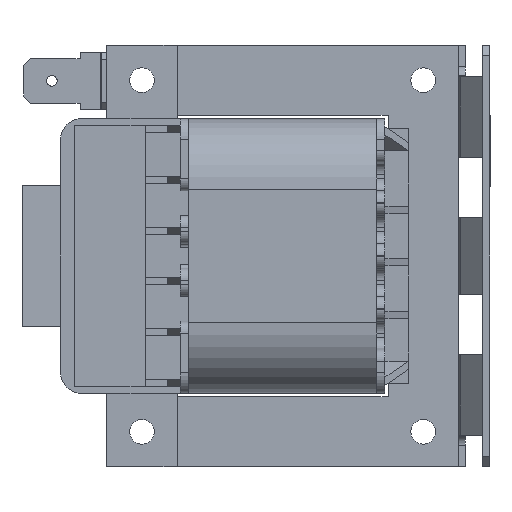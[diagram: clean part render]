
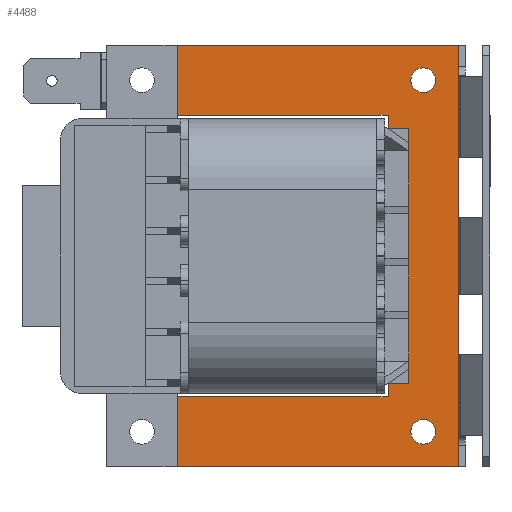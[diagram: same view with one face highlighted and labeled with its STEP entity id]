
A CAD part, left-side view. The second image highlights one B-rep face of the part: STEP entity #4488.
In plain terms, the highlighted planar face has unit normal (-1, 0, 0).
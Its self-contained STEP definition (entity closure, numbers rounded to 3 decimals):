
#148 = LINE ( 'NONE', #2584, #17197 ) ;
#306 = LINE ( 'NONE', #9250, #22642 ) ;
#346 = DIRECTION ( 'NONE',  ( 0., -1., 0. ) ) ;
#448 = EDGE_CURVE ( 'NONE', #9508, #2737, #2443, .T. ) ;
#568 = FACE_BOUND ( 'NONE', #26976, .T. ) ;
#590 = LINE ( 'NONE', #17145, #617 ) ;
#617 = VECTOR ( 'NONE', #26851, 1000. ) ;
#984 = ORIENTED_EDGE ( 'NONE', *, *, #28867, .F. ) ;
#1249 = AXIS2_PLACEMENT_3D ( 'NONE', #4838, #4713, #4674 ) ;
#1821 = VECTOR ( 'NONE', #19658, 1000. ) ;
#2033 = CARTESIAN_POINT ( 'NONE',  ( -10.5, 40., 30. ) ) ;
#2141 = ORIENTED_EDGE ( 'NONE', *, *, #25200, .F. ) ;
#2443 = LINE ( 'NONE', #19525, #4057 ) ;
#2543 = LINE ( 'NONE', #26279, #1821 ) ;
#2564 = VECTOR ( 'NONE', #21521, 1000. ) ;
#2584 = CARTESIAN_POINT ( 'NONE',  ( -10.5, 40., 30. ) ) ;
#2729 = CARTESIAN_POINT ( 'NONE',  ( -10.5, 40., -30. ) ) ;
#2737 = VERTEX_POINT ( 'NONE', #4997 ) ;
#2883 = CARTESIAN_POINT ( 'NONE',  ( -10.5, 5., 25. ) ) ;
#3529 = EDGE_CURVE ( 'NONE', #16039, #8629, #590, .T. ) ;
#3856 = EDGE_CURVE ( 'NONE', #24986, #26469, #6150, .T. ) ;
#4049 = ORIENTED_EDGE ( 'NONE', *, *, #22302, .F. ) ;
#4057 = VECTOR ( 'NONE', #4483, 1000. ) ;
#4459 = LINE ( 'NONE', #11132, #22290 ) ;
#4483 = DIRECTION ( 'NONE',  ( 0., 1., 0. ) ) ;
#4488 = ADVANCED_FACE ( 'NONE', ( #25323, #568, #9359 ), #4929, .F. ) ;
#4674 = DIRECTION ( 'NONE',  ( 0., 0., -1. ) ) ;
#4713 = DIRECTION ( 'NONE',  ( 1., 0., 0. ) ) ;
#4838 = CARTESIAN_POINT ( 'NONE',  ( -10.5, 40., -20. ) ) ;
#4909 = CARTESIAN_POINT ( 'NONE',  ( -10.5, 40., -20. ) ) ;
#4929 = PLANE ( 'NONE',  #1249 ) ;
#4997 = CARTESIAN_POINT ( 'NONE',  ( -10.5, 40., 20. ) ) ;
#5068 = DIRECTION ( 'NONE',  ( 0., 0., -1. ) ) ;
#5392 = CARTESIAN_POINT ( 'NONE',  ( -10.5, 10., -20. ) ) ;
#6014 = ORIENTED_EDGE ( 'NONE', *, *, #27457, .F. ) ;
#6062 = VECTOR ( 'NONE', #21750, 1000. ) ;
#6150 = LINE ( 'NONE', #20794, #6062 ) ;
#6591 = VERTEX_POINT ( 'NONE', #5392 ) ;
#6870 = CARTESIAN_POINT ( 'NONE',  ( -10.5, 5., -25. ) ) ;
#6908 = ORIENTED_EDGE ( 'NONE', *, *, #21796, .F. ) ;
#7315 = CARTESIAN_POINT ( 'NONE',  ( -10.5, 0., 30. ) ) ;
#7464 = EDGE_CURVE ( 'NONE', #25680, #25680, #24469, .T. ) ;
#7940 = ORIENTED_EDGE ( 'NONE', *, *, #11277, .T. ) ;
#8462 = LINE ( 'NONE', #10271, #2564 ) ;
#8629 = VERTEX_POINT ( 'NONE', #13686 ) ;
#8752 = VECTOR ( 'NONE', #12371, 1000. ) ;
#9250 = CARTESIAN_POINT ( 'NONE',  ( -10.5, 40., 20. ) ) ;
#9359 = FACE_OUTER_BOUND ( 'NONE', #15219, .T. ) ;
#9433 = DIRECTION ( 'NONE',  ( 0., 0., 1. ) ) ;
#9470 = VERTEX_POINT ( 'NONE', #10473 ) ;
#9508 = VERTEX_POINT ( 'NONE', #9520 ) ;
#9520 = CARTESIAN_POINT ( 'NONE',  ( -10.5, 10., 20. ) ) ;
#10271 = CARTESIAN_POINT ( 'NONE',  ( -10.5, 40., 10. ) ) ;
#10281 = CARTESIAN_POINT ( 'NONE',  ( -10.5, 40., -10. ) ) ;
#10473 = CARTESIAN_POINT ( 'NONE',  ( -10.5, 10., 10. ) ) ;
#10534 = AXIS2_PLACEMENT_3D ( 'NONE', #2883, #18474, #5068 ) ;
#10750 = DIRECTION ( 'NONE',  ( 1., 0., 0. ) ) ;
#10808 = CARTESIAN_POINT ( 'NONE',  ( -10.5, 0., -30. ) ) ;
#10819 = VERTEX_POINT ( 'NONE', #19429 ) ;
#11132 = CARTESIAN_POINT ( 'NONE',  ( -10.5, 10., -10. ) ) ;
#11140 = VECTOR ( 'NONE', #11677, 1000. ) ;
#11277 = EDGE_CURVE ( 'NONE', #24990, #24990, #20054, .T. ) ;
#11677 = DIRECTION ( 'NONE',  ( 0., -1., 0. ) ) ;
#11912 = DIRECTION ( 'NONE',  ( 0., 0., 1. ) ) ;
#12174 = VERTEX_POINT ( 'NONE', #19927 ) ;
#12371 = DIRECTION ( 'NONE',  ( 0., 1., 0. ) ) ;
#12820 = EDGE_LOOP ( 'NONE', ( #21569 ) ) ;
#13686 = CARTESIAN_POINT ( 'NONE',  ( -10.5, 40., 10. ) ) ;
#14367 = EDGE_CURVE ( 'NONE', #25401, #24986, #148, .T. ) ;
#14418 = DIRECTION ( 'NONE',  ( 0., 0., -1. ) ) ;
#14520 = CARTESIAN_POINT ( 'NONE',  ( -10.5, 0., -30. ) ) ;
#14669 = LINE ( 'NONE', #14520, #8752 ) ;
#14679 = ORIENTED_EDGE ( 'NONE', *, *, #17437, .F. ) ;
#14970 = EDGE_CURVE ( 'NONE', #8629, #9470, #8462, .T. ) ;
#15219 = EDGE_LOOP ( 'NONE', ( #6014, #27326, #984, #25850, #28249, #14679, #26868, #6908, #4049, #2141, #16909, #27411 ) ) ;
#16039 = VERTEX_POINT ( 'NONE', #10281 ) ;
#16683 = CARTESIAN_POINT ( 'NONE',  ( -10.5, 5., 23.25 ) ) ;
#16909 = ORIENTED_EDGE ( 'NONE', *, *, #3856, .F. ) ;
#17056 = LINE ( 'NONE', #4909, #11140 ) ;
#17145 = CARTESIAN_POINT ( 'NONE',  ( -10.5, 40., -10. ) ) ;
#17197 = VECTOR ( 'NONE', #346, 1000. ) ;
#17313 = CARTESIAN_POINT ( 'NONE',  ( -10.5, 40., -30. ) ) ;
#17437 = EDGE_CURVE ( 'NONE', #10819, #16039, #4459, .T. ) ;
#17733 = VECTOR ( 'NONE', #9433, 1000. ) ;
#18474 = DIRECTION ( 'NONE',  ( 1., 0., 0. ) ) ;
#19429 = CARTESIAN_POINT ( 'NONE',  ( -10.5, 10., -10. ) ) ;
#19525 = CARTESIAN_POINT ( 'NONE',  ( -10.5, 10., 20. ) ) ;
#19658 = DIRECTION ( 'NONE',  ( 0., 0., 1. ) ) ;
#19927 = CARTESIAN_POINT ( 'NONE',  ( -10.5, 40., -20. ) ) ;
#20020 = AXIS2_PLACEMENT_3D ( 'NONE', #6870, #10750, #14418 ) ;
#20054 = CIRCLE ( 'NONE', #10534, 1.75 ) ;
#20186 = EDGE_CURVE ( 'NONE', #6591, #10819, #2543, .T. ) ;
#20790 = CARTESIAN_POINT ( 'NONE',  ( -10.5, 10., 10. ) ) ;
#20794 = CARTESIAN_POINT ( 'NONE',  ( -10.5, 0., 30. ) ) ;
#21521 = DIRECTION ( 'NONE',  ( 0., -1., 0. ) ) ;
#21569 = ORIENTED_EDGE ( 'NONE', *, *, #7464, .T. ) ;
#21750 = DIRECTION ( 'NONE',  ( 0., 0., -1. ) ) ;
#21796 = EDGE_CURVE ( 'NONE', #12174, #6591, #17056, .T. ) ;
#22290 = VECTOR ( 'NONE', #26732, 1000. ) ;
#22302 = EDGE_CURVE ( 'NONE', #25357, #12174, #23004, .T. ) ;
#22642 = VECTOR ( 'NONE', #27100, 1000. ) ;
#23004 = LINE ( 'NONE', #2729, #17733 ) ;
#23911 = LINE ( 'NONE', #20790, #28444 ) ;
#24469 = CIRCLE ( 'NONE', #20020, 1.75 ) ;
#24986 = VERTEX_POINT ( 'NONE', #7315 ) ;
#24990 = VERTEX_POINT ( 'NONE', #16683 ) ;
#25200 = EDGE_CURVE ( 'NONE', #26469, #25357, #14669, .T. ) ;
#25323 = FACE_BOUND ( 'NONE', #12820, .T. ) ;
#25357 = VERTEX_POINT ( 'NONE', #17313 ) ;
#25401 = VERTEX_POINT ( 'NONE', #2033 ) ;
#25561 = CARTESIAN_POINT ( 'NONE',  ( -10.5, 5., -26.75 ) ) ;
#25680 = VERTEX_POINT ( 'NONE', #25561 ) ;
#25850 = ORIENTED_EDGE ( 'NONE', *, *, #14970, .F. ) ;
#26279 = CARTESIAN_POINT ( 'NONE',  ( -10.5, 10., -20. ) ) ;
#26469 = VERTEX_POINT ( 'NONE', #10808 ) ;
#26732 = DIRECTION ( 'NONE',  ( 0., 1., 0. ) ) ;
#26851 = DIRECTION ( 'NONE',  ( 0., 0., 1. ) ) ;
#26868 = ORIENTED_EDGE ( 'NONE', *, *, #20186, .F. ) ;
#26976 = EDGE_LOOP ( 'NONE', ( #7940 ) ) ;
#27100 = DIRECTION ( 'NONE',  ( 0., 0., 1. ) ) ;
#27326 = ORIENTED_EDGE ( 'NONE', *, *, #448, .F. ) ;
#27411 = ORIENTED_EDGE ( 'NONE', *, *, #14367, .F. ) ;
#27457 = EDGE_CURVE ( 'NONE', #2737, #25401, #306, .T. ) ;
#28249 = ORIENTED_EDGE ( 'NONE', *, *, #3529, .F. ) ;
#28444 = VECTOR ( 'NONE', #11912, 1000. ) ;
#28867 = EDGE_CURVE ( 'NONE', #9470, #9508, #23911, .T. ) ;
